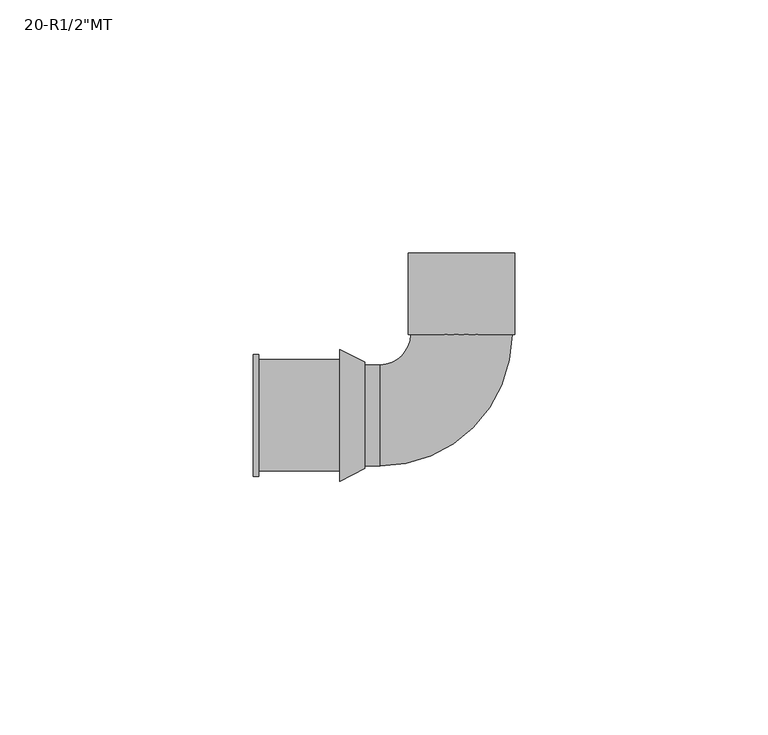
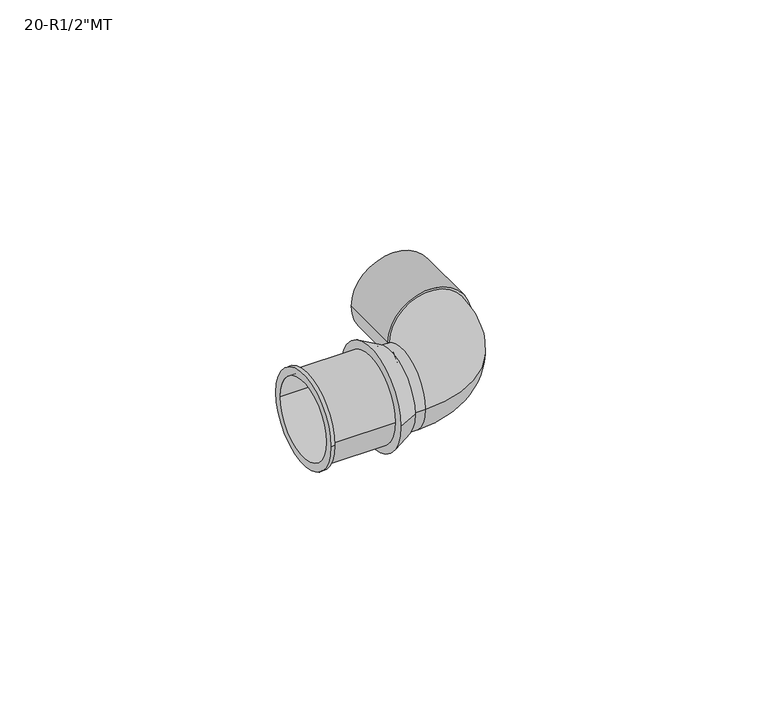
"""IFC4 building model written with IfcOpenShell, lengths in millimetres: pipe fitting geometry."""

import ifcopenshell
import ifcopenshell.guid

model = None  # the IFC model being written
_history = None  # IfcOwnerHistory: only IFC2X3 demands one
_inside = {}  # id of a spatial element -> (the spatial element, [elements in it])
_under = {}  # id of a project, library or spatial element -> (it, [spatial elements below it])
_declared = {}  # id of a project -> (the project, [libraries it declares])
_typed = {}  # id of a type object -> (the type object, [elements of that type])
_made_of = {}  # id of a material, layer set ... -> (it, [elements and type objects made of it])


def new_model(schema):
    """Start an empty IFC model of exactly this schema.

    Asked for "IFC4X3", IfcOpenShell would pick the latest addendum, in which some entities
    have other attributes; the version numbers below select the first issue.
    IFC2X3 requires an IfcOwnerHistory on every rooted entity: one is made here for all.
    """
    global model, _history
    if schema == "IFC4X3":
        model = ifcopenshell.file(schema_version=(4, 3, 0, 0))
    else:
        model = ifcopenshell.file(schema=schema)
    _inside.clear()
    _under.clear()
    _declared.clear()
    _typed.clear()
    _made_of.clear()
    _history = None
    if model.schema == "IFC2X3":
        org = make("IfcOrganization", Name="unknown")
        user = make(
            "IfcPersonAndOrganization",
            ThePerson=make("IfcPerson", FamilyName="unknown"),
            TheOrganization=org,
        )
        app = make(
            "IfcApplication",
            ApplicationDeveloper=org,
            Version="unknown",
            ApplicationFullName="unknown",
            ApplicationIdentifier="unknown",
        )
        _history = make(
            "IfcOwnerHistory",
            OwningUser=user,
            OwningApplication=app,
            ChangeAction="ADDED",
            CreationDate=0,
        )
    return model


def make(cls, **values):
    """One entity of the class cls with the attributes given. An attribute that is None is left unset."""
    return model.create_entity(
        cls, **{name: value for name, value in values.items() if value is not None}
    )


def rooted(cls, **values):
    """An entity with a GlobalId (a new one), such as an element, a storey or a relation."""
    return make(cls, GlobalId=ifcopenshell.guid.new(), OwnerHistory=_history, **values)


def si_unit(unit_type, name, prefix=None):
    """IfcSIUnit, for example si_unit("LENGTHUNIT", "METRE", prefix="MILLI")."""
    return make("IfcSIUnit", UnitType=unit_type, Prefix=prefix, Name=name)


def assignment(units):
    """IfcUnitAssignment: the units of a project."""
    return None if units is None else make("IfcUnitAssignment", Units=units)


def point(xyz):
    """IfcCartesianPoint."""
    return None if xyz is None else make("IfcCartesianPoint", Coordinates=xyz)


def direction(xyz):
    """IfcDirection."""
    return None if xyz is None else make("IfcDirection", DirectionRatios=xyz)


def frame(location, z_axis=None, x_axis=None):
    """IfcAxis2Placement3D, a coordinate frame: its origin and axes. An axis left out is left unset."""
    return make(
        "IfcAxis2Placement3D",
        Location=point(location),
        Axis=direction(z_axis),
        RefDirection=direction(x_axis),
    )


def frame_2d(location, x_axis=None):
    """IfcAxis2Placement2D, a coordinate frame in the plane: its origin and x axis."""
    return make(
        "IfcAxis2Placement2D", Location=point(location), RefDirection=direction(x_axis)
    )


def origin():
    """The frame at (0, 0, 0) with its axes left unset."""
    return frame((0.0, 0.0, 0.0))


def origin_2d():
    """The frame at (0, 0) in the plane with its x axis left unset."""
    return frame_2d((0.0, 0.0))


def place(relative_to, where):
    """IfcLocalPlacement: puts the frame where relative to a parent placement (None: the world)."""
    return make(
        "IfcLocalPlacement", PlacementRelTo=relative_to, RelativePlacement=where
    )


def context(
    kind, dimensions, precision=None, world=None, true_north=None, identifier=None
):
    """IfcGeometricRepresentationContext, for example the 3D "Model" context."""
    return make(
        "IfcGeometricRepresentationContext",
        ContextIdentifier=identifier,
        ContextType=kind,
        CoordinateSpaceDimension=dimensions,
        Precision=precision,
        WorldCoordinateSystem=world,
        TrueNorth=true_north,
    )


def project(units=None, contexts=None):
    """IfcProject with its units and contexts."""
    return rooted(
        "IfcProject",
        Name="project",
        RepresentationContexts=contexts,
        UnitsInContext=assignment(units),
    )


def spatial(cls, under=None, at=None, **own):
    """A site, building, storey or space (cls), placed at a placement, below another one or the project."""
    s = rooted(cls, ObjectPlacement=at, **own)
    if under is not None:
        _under.setdefault(under.id(), (under, []))[1].append(s)
    return s


def polyline(points):
    """IfcPolyline through the points."""
    return make("IfcPolyline", Points=[point(p) for p in points])


def circle_curve(where, radius):
    """IfcCircle in the frame where."""
    return make("IfcCircle", Position=where, Radius=radius)


def ellipse_curve(where, semi_axis1, semi_axis2):
    """IfcEllipse in the frame where."""
    return make(
        "IfcEllipse", Position=where, SemiAxis1=semi_axis1, SemiAxis2=semi_axis2
    )


def trimmed(basis, trim1, trim2, sense, master):
    """IfcTrimmedCurve: the piece of a basis curve between two trims."""
    return make(
        "IfcTrimmedCurve",
        BasisCurve=basis,
        Trim1=trim1,
        Trim2=trim2,
        SenseAgreement=sense,
        MasterRepresentation=master,
    )


def segment(curve, same_sense, transition):
    """IfcCompositeCurveSegment."""
    return make(
        "IfcCompositeCurveSegment",
        Transition=transition,
        SameSense=same_sense,
        ParentCurve=curve,
    )


def composite_curve(segments, self_intersect=None):
    """IfcCompositeCurve: segments joined end to end."""
    return make("IfcCompositeCurve", Segments=segments, SelfIntersect=self_intersect)


def outline(outer, holes=None, kind="AREA"):
    """IfcArbitraryClosedProfileDef: a profile drawn as a closed curve; with holes, ...WithVoids."""
    if holes is None:
        return make("IfcArbitraryClosedProfileDef", ProfileType=kind, OuterCurve=outer)
    return make(
        "IfcArbitraryProfileDefWithVoids",
        ProfileType=kind,
        OuterCurve=outer,
        InnerCurves=holes,
    )


def extrude(swept, where, along, depth):
    """IfcExtrudedAreaSolid: the profile swept, set in the frame where, extruded along a direction by depth."""
    return make(
        "IfcExtrudedAreaSolid",
        SweptArea=swept,
        Position=where,
        ExtrudedDirection=direction(along),
        Depth=depth,
    )


def shape(context_of_items, identifier, shape_type, items):
    """IfcShapeRepresentation: the items that make up one representation, for example the "Body"."""
    return make(
        "IfcShapeRepresentation",
        ContextOfItems=context_of_items,
        RepresentationIdentifier=identifier,
        RepresentationType=shape_type,
        Items=items,
    )


def source(mapping_origin, context_of_items, identifier, shape_type, items):
    """IfcRepresentationMap: a shape defined once, which mapped items show again and again."""
    return make(
        "IfcRepresentationMap",
        MappingOrigin=mapping_origin,
        MappedRepresentation=shape(context_of_items, identifier, shape_type, items),
    )


def transform(
    local_origin,
    x_axis=None,
    y_axis=None,
    z_axis=None,
    scale=None,
    scale2=None,
    scale3=None,
    uniform=True,
):
    """IfcCartesianTransformationOperator3D, or its non-uniform kind. x_axis, y_axis, z_axis: its Axis1, 2, 3."""
    if uniform:
        return make(
            "IfcCartesianTransformationOperator3D",
            Axis1=direction(x_axis),
            Axis2=direction(y_axis),
            LocalOrigin=point(local_origin),
            Scale=scale,
            Axis3=direction(z_axis),
        )
    return make(
        "IfcCartesianTransformationOperator3DnonUniform",
        Axis1=direction(x_axis),
        Axis2=direction(y_axis),
        LocalOrigin=point(local_origin),
        Scale=scale,
        Axis3=direction(z_axis),
        Scale2=scale2,
        Scale3=scale3,
    )


def mapped(mapping_source, mapping_target):
    """IfcMappedItem: shows the shape of a source again, moved by a transform."""
    return make(
        "IfcMappedItem", MappingSource=mapping_source, MappingTarget=mapping_target
    )


def made_of(thing, what):
    """Note that an element or type object is made of a material, layer set ...; save() writes the relation."""
    if what is not None:
        _made_of.setdefault(what.id(), (what, []))[1].append(thing)
    return thing


def element(
    cls,
    number,
    at=None,
    inside=None,
    cuts=None,
    type_object=None,
    material=None,
    context=None,
    identifier="Body",
    shape_type=None,
    held_by="IfcProductDefinitionShape",
    body=None,
    shapes=None,
    **own,
):
    """One element of the class cls, such as IfcWall. Its Tag is "e" and its number.

    at: its placement. inside: the storey or other place that contains it. cuts: it is an
    opening in that element (IfcRelVoidsElement). A single representation is given by context,
    identifier, shape_type and body (its items); several are given by shapes. held_by: the class
    of the entity that holds the representations. save() writes the other relations.
    """
    e = rooted(cls, Tag="e%d" % number, ObjectPlacement=at, **own)
    if body is not None:
        shapes = [shape(context, identifier, shape_type, body)]
    if shapes is not None:
        e.Representation = make(held_by, Representations=shapes)
    if inside is not None:
        _inside.setdefault(inside.id(), (inside, []))[1].append(e)
    if cuts is not None:
        rooted(
            "IfcRelVoidsElement", RelatingBuildingElement=cuts, RelatedOpeningElement=e
        )
    if type_object is not None:
        _typed.setdefault(type_object.id(), (type_object, []))[1].append(e)
    return made_of(e, material)


def aggregate(whole, parts):
    """IfcRelAggregates: a whole, such as a stair, and the parts it consists of."""
    return rooted("IfcRelAggregates", RelatingObject=whole, RelatedObjects=parts)


def save(model, path):
    """Write the relations noted so far, then the file.

    IfcRelAggregates (storeys below a building ...), IfcRelContainedInSpatialStructure (elements
    in a storey), IfcRelDefinesByType, IfcRelAssociatesMaterial and IfcRelDeclares: one each for
    every whole, place, type object, material and project.
    """
    for whole, parts in _under.values():
        aggregate(whole, parts)
    for where, things in _inside.values():
        rooted(
            "IfcRelContainedInSpatialStructure",
            RelatedElements=things,
            RelatingStructure=where,
        )
    for kind, things in _typed.values():
        rooted("IfcRelDefinesByType", RelatedObjects=things, RelatingType=kind)
    for what, things in _made_of.values():
        rooted("IfcRelAssociatesMaterial", RelatedObjects=things, RelatingMaterial=what)
    for by, libraries in _declared.values():
        rooted("IfcRelDeclares", RelatingContext=by, RelatedDefinitions=libraries)
    model.write(path)


def plane_surface(at):
    """IfcPlane: the flat surface through the origin of the frame at, square to its z axis."""
    return make("IfcPlane", Position=at)


def cylinder_surface(at, radius):
    """IfcCylindricalSurface: all points at the distance radius from the z axis of the frame at."""
    return make("IfcCylindricalSurface", Position=at, Radius=radius)


def revolved_surface(curve, axis_point, axis_direction):
    """IfcSurfaceOfRevolution: the curve turned about the line through axis_point along axis_direction."""
    return make(
        "IfcSurfaceOfRevolution",
        SweptCurve=make("IfcArbitraryOpenProfileDef", ProfileType="CURVE", Curve=curve),
        AxisPosition=make("IfcAxis1Placement", Location=point(axis_point), Axis=direction(axis_direction)),
    )


def advanced_brep(points, edges, surfaces, faces):
    """IfcAdvancedBrep: a solid bounded by faces that lie on surfaces and meet in shared edges.

    An edge is (start, end): straight between two places in points (the first is 0);
    or (start, end, curve); or (start, end, curve, False) where it runs against its curve.
    A face is (place in surfaces, loops), or (place, loops, False) where it looks against
    its surface's normal. A loop lists edges by number (the first is 1), with a minus sign
    where the edge is run from its end to its start. The first loop is the outer one.
    """
    corners = [point(p) for p in points]
    vertices = [make("IfcVertexPoint", VertexGeometry=c) for c in corners]
    made = []
    for start, end, *more in edges:
        made.append(
            make(
                "IfcEdgeCurve",
                EdgeStart=vertices[start],
                EdgeEnd=vertices[end],
                EdgeGeometry=more[0] if more else make("IfcPolyline", Points=[corners[start], corners[end]]),
                SameSense=more[1] if len(more) > 1 else True,
            )
        )
    hull = []
    for where, loops, *sense in faces:
        bounds = []
        for j, loop in enumerate(loops):
            ring = [make("IfcOrientedEdge", EdgeElement=made[abs(k) - 1], Orientation=k > 0) for k in loop]
            bounds.append(
                make(
                    "IfcFaceOuterBound" if j == 0 else "IfcFaceBound",
                    Bound=make("IfcEdgeLoop", EdgeList=ring),
                    Orientation=True,
                )
            )
        hull.append(make("IfcAdvancedFace", Bounds=bounds, FaceSurface=surfaces[where], SameSense=sense[0] if sense else True))
    return make("IfcAdvancedBrep", Outer=make("IfcClosedShell", CfsFaces=hull))


def pipe_fitting_791ebc37(model_context):
    return source(origin(), model_context, "Body", "SolidModel", [
        advanced_brep(
        [(10.0, 16.0, 0.0), (-10.0, 16.0, 0.0), (-16.0, 10.0, 0.0), (-16.0, -10.0, 0.0), (-19.0, -10.0, 0.0), (-19.0, 10.0, 0.0)],
        [
            (0, 1, circle_curve(frame((0.0, 16.0, 0.0), z_axis=(0.0, 1.0, 0.0), x_axis=(-1.0, 0.0, 0.0)), 10.0)),
            (1, 0, circle_curve(frame((0.0, 16.0, 0.0), z_axis=(0.0, 1.0, 0.0), x_axis=(-1.0, 0.0, 0.0)), 10.0)),
            (1, 2, circle_curve(frame((-16.0, 16.0, 0.0), z_axis=(0.0, 0.0, -1.0), x_axis=(0.0, -1.0, 0.0)), 6.0)),
            (2, 3, circle_curve(frame((-16.0, 0.0, 0.0), z_axis=(1.0, 0.0, 0.0), x_axis=(0.0, 1.0, 0.0)), 10.0)),
            (3, 0, circle_curve(frame((-16.0, 16.0, 0.0), z_axis=(0.0, 0.0, 1.0), x_axis=(0.0, -1.0, 0.0)), 26.0)),
            (3, 2, circle_curve(frame((-16.0, 0.0, 0.0), z_axis=(1.0, 0.0, 0.0), x_axis=(0.0, 1.0, 0.0)), 10.0)),
            (4, 5, circle_curve(frame((-19.0, 0.0, 0.0), z_axis=(-1.0, 0.0, 0.0), x_axis=(0.0, 1.0, 0.0)), 10.0)),
            (5, 4, circle_curve(frame((-19.0, 0.0, 0.0), z_axis=(-1.0, 0.0, 0.0), x_axis=(0.0, 1.0, 0.0)), 10.0)),
            (4, 3),
            (2, 5),
        ],
        [
            plane_surface(frame((0.0, 16.0, 0.0), z_axis=(0.0, 1.0, 0.0), x_axis=(0.0, 0.0, 1.0))),
            revolved_surface(trimmed(ellipse_curve(frame((-16.0, 0.0, 0.0), z_axis=(-1.0, 0.0, 0.0), x_axis=(0.0, 1.0, 0.0)), 10.0, 10.0), [point((-16.0, -10.0, 0.0))], [point((-16.0, 10.0, 0.0))], True, "CARTESIAN"), (-16.0, 16.0, 0.0), (0.0, 0.0, 1.0)),
            revolved_surface(trimmed(ellipse_curve(frame((-16.0, 0.0, 0.0), z_axis=(-1.0, 0.0, 0.0), x_axis=(0.0, 1.0, 0.0)), 10.0, 10.0), [point((-16.0, 10.0, 0.0))], [point((-16.0, -10.0, 0.0))], True, "CARTESIAN"), (-16.0, 16.0, 0.0), (0.0, 0.0, 1.0)),
            plane_surface(frame((-19.0, 0.0, 0.0), z_axis=(-1.0, 0.0, 0.0), x_axis=(0.0, 0.0, 1.0))),
            cylinder_surface(frame((-19.0, 0.0, 0.0), z_axis=(-1.0, 0.0, 0.0), x_axis=(0.0, 1.0, 0.0)), 10.0),
        ],
        [
            (0, [[1, 2]]),
            (1, [[-2, 3, 4, 5]]),
            (2, [[-1, -5, 6, -3]]),
            (3, [[7, 8]]),
            (4, [[-7, 9, -4, 10]]),
            (4, [[-8, -10, -6, -9]]),
        ],
    ),
        extrude(outline(composite_curve([segment(trimmed(circle_curve(origin_2d(), 10.5), [point((0.0, -10.5))], [point((0.0, 10.5))], False, "CARTESIAN"), True, "CONTINUOUS"), segment(trimmed(circle_curve(origin_2d(), 10.5), [point((0.0, 10.5))], [point((0.0, -10.5))], False, "CARTESIAN"), True, "CONTINUOUS")], self_intersect=False), holes=[composite_curve([segment(trimmed(circle_curve(origin_2d(), 7.5), [point((0.0, -7.5))], [point((0.0, 7.5))], True, "CARTESIAN"), True, "CONTINUOUS"), segment(trimmed(circle_curve(origin_2d(), 7.5), [point((0.0, 7.5))], [point((0.0, -7.5))], True, "CARTESIAN"), True, "CONTINUOUS")], self_intersect=False)]), frame((0.0, 16.0, 0.0), z_axis=(0.0, 1.0, 0.0), x_axis=(0.0, 0.0, 1.0)), (0.0, 0.0, 1.0), 16.0),
        advanced_brep(
        [(-19.0, -10.5, 0.0), (-19.0, 10.5, 0.0), (-19.0, 10.0, 0.0), (-19.0, -10.0, 0.0), (-24.0, -13.0, 0.0), (-24.0, 13.0, 0.0), (-24.0, -10.0, 0.0), (-24.0, 10.0, 0.0)],
        [
            (0, 1, circle_curve(frame((-19.0, 0.0, 0.0), z_axis=(1.0, 0.0, 0.0), x_axis=(0.0, -1.0, 0.0)), 10.5)),
            (1, 0, circle_curve(frame((-19.0, 0.0, 0.0), z_axis=(1.0, 0.0, 0.0), x_axis=(0.0, 1.0, 0.0)), 10.5)),
            (2, 3, circle_curve(frame((-19.0, 0.0, 0.0), z_axis=(-1.0, 0.0, 0.0), x_axis=(0.0, 1.0, 0.0)), 10.0)),
            (3, 2, circle_curve(frame((-19.0, 0.0, 0.0), z_axis=(-1.0, 0.0, 0.0), x_axis=(0.0, 1.0, 0.0)), 10.0)),
            (4, 5, circle_curve(frame((-24.0, 0.0, 0.0), z_axis=(-1.0, 0.0, 0.0), x_axis=(0.0, 1.0, 0.0)), 13.0)),
            (5, 4, circle_curve(frame((-24.0, 0.0, 0.0), z_axis=(-1.0, 0.0, 0.0), x_axis=(0.0, -1.0, 0.0)), 13.0)),
            (6, 7, circle_curve(frame((-24.0, 0.0, 0.0), z_axis=(1.0, 0.0, 0.0), x_axis=(0.0, 1.0, 0.0)), 10.0)),
            (7, 6, circle_curve(frame((-24.0, 0.0, 0.0), z_axis=(1.0, 0.0, 0.0), x_axis=(0.0, 1.0, 0.0)), 10.0)),
            (0, 4),
            (5, 1),
            (2, 7),
            (6, 3),
        ],
        [
            plane_surface(frame((-19.0, 0.0, 0.0), z_axis=(1.0, 0.0, 0.0), x_axis=(0.0, 0.0, -1.0))),
            plane_surface(frame((-24.0, 0.0, 0.0), z_axis=(-1.0, 0.0, 0.0), x_axis=(0.0, 0.0, -1.0))),
            revolved_surface(polyline([(-19.0, -10.5, 0.0), (-24.0, -13.0, 0.0)]), (2.0, 0.0, 0.0), (-1.0, 0.0, 0.0)),
            revolved_surface(polyline([(-19.0, 10.5, 0.0), (-24.0, 13.0, 0.0)]), (2.0, 0.0, 0.0), (-1.0, 0.0, 0.0)),
            revolved_surface(polyline([(-19.0, 10.0, 0.0), (-24.0, 10.0, 0.0)]), (-24.0, 0.0, 0.0), (1.0, 0.0, 0.0)),
        ],
        [
            (0, [[1, 2], [3, 4]]),
            (1, [[5, 6], [7, 8]]),
            (2, [[-1, 9, -6, 10]]),
            (3, [[-2, -10, -5, -9]]),
            (4, [[11, -7, 12, -3]]),
            (4, [[-11, -4, -12, -8]]),
        ],
    ),
        advanced_brep(
        [(-41.0, -12.0, 0.0), (-41.0, 12.0, 0.0), (-41.0, -10.0, 0.0), (-41.0, 10.0, 0.0), (-24.0, -11.0, 0.0), (-24.0, 11.0, 0.0), (-24.0, -10.0, 0.0), (-24.0, 10.0, 0.0), (-40.0, 11.0, 0.0), (-40.0, -11.0, 0.0), (-40.0, -12.0, 0.0), (-40.0, 12.0, 0.0)],
        [
            (0, 1, circle_curve(frame((-41.0, 0.0, 0.0), z_axis=(-1.0, 0.0, 0.0), x_axis=(0.0, 1.0, 0.0)), 12.0)),
            (1, 0, circle_curve(frame((-41.0, 0.0, 0.0), z_axis=(-1.0, 0.0, 0.0), x_axis=(0.0, 1.0, 0.0)), 12.0)),
            (2, 3, circle_curve(frame((-41.0, 0.0, 0.0), z_axis=(1.0, 0.0, 0.0), x_axis=(0.0, 1.0, 0.0)), 10.0)),
            (3, 2, circle_curve(frame((-41.0, 0.0, 0.0), z_axis=(1.0, 0.0, 0.0), x_axis=(0.0, 1.0, 0.0)), 10.0)),
            (4, 5, circle_curve(frame((-24.0, 0.0, 0.0), z_axis=(1.0, 0.0, 0.0), x_axis=(0.0, 1.0, 0.0)), 11.0)),
            (5, 4, circle_curve(frame((-24.0, 0.0, 0.0), z_axis=(1.0, 0.0, 0.0), x_axis=(0.0, 1.0, 0.0)), 11.0)),
            (6, 7, circle_curve(frame((-24.0, 0.0, 0.0), z_axis=(-1.0, 0.0, 0.0), x_axis=(0.0, 1.0, 0.0)), 10.0)),
            (7, 6, circle_curve(frame((-24.0, 0.0, 0.0), z_axis=(-1.0, 0.0, 0.0), x_axis=(0.0, 1.0, 0.0)), 10.0)),
            (2, 6),
            (7, 3),
            (5, 8),
            (8, 9, circle_curve(frame((-40.0, 0.0, 0.0), z_axis=(1.0, 0.0, 0.0), x_axis=(0.0, 1.0, 0.0)), 11.0)),
            (9, 4),
            (9, 8, circle_curve(frame((-40.0, 0.0, 0.0), z_axis=(1.0, 0.0, 0.0), x_axis=(0.0, 1.0, 0.0)), 11.0)),
            (10, 11, circle_curve(frame((-40.0, 0.0, 0.0), z_axis=(1.0, 0.0, 0.0), x_axis=(0.0, 1.0, 0.0)), 12.0)),
            (11, 10, circle_curve(frame((-40.0, 0.0, 0.0), z_axis=(1.0, 0.0, 0.0), x_axis=(0.0, 1.0, 0.0)), 12.0)),
            (0, 10),
            (11, 1),
        ],
        [
            plane_surface(frame((-41.0, 0.0, 0.0), z_axis=(-1.0, 0.0, 0.0), x_axis=(0.0, 0.0, 1.0))),
            plane_surface(frame((-24.0, 0.0, 0.0), z_axis=(1.0, 0.0, 0.0), x_axis=(0.0, 0.0, 1.0))),
            revolved_surface(polyline([(-24.0, 10.0, 0.0), (-41.0, 10.0, 0.0)]), (-41.0, 0.0, 0.0), (1.0, 0.0, 0.0)),
            cylinder_surface(frame((-41.0, 0.0, 0.0), z_axis=(-1.0, 0.0, 0.0), x_axis=(0.0, 1.0, 0.0)), 11.0),
            plane_surface(frame((-40.0, 0.0, 0.0), z_axis=(1.0, 0.0, 0.0), x_axis=(0.0, 0.0, 1.0))),
            cylinder_surface(frame((-41.0, 0.0, 0.0), z_axis=(-1.0, 0.0, 0.0), x_axis=(0.0, 1.0, 0.0)), 12.0),
        ],
        [
            (0, [[1, 2], [3, 4]]),
            (1, [[5, 6], [7, 8]]),
            (2, [[-3, 9, -8, 10]]),
            (2, [[-4, -10, -7, -9]]),
            (3, [[-6, 11, 12, 13]]),
            (3, [[-5, -13, 14, -11]]),
            (4, [[15, 16], [-12, -14]]),
            (5, [[-1, 17, -16, 18]]),
            (5, [[-2, -18, -15, -17]]),
        ],
    ),
    ])


if __name__ == "__main__":
    model = new_model("IFC4")
    model_context = context("Model", 3, world=origin())
    ifc_project = project(units=[si_unit("LENGTHUNIT", "METRE", prefix="MILLI")], contexts=[model_context])
    site = spatial("IfcSite", under=ifc_project)
    building = spatial("IfcBuilding", under=site)
    placement = place(None, origin())
    pipe_fitting_shape = pipe_fitting_791ebc37(model_context)
    element("IfcPipeFitting", 1, ObjectType="SuperPipe_ElbowAdapterMT_MAX_R : 20-R1/2\"MT", at=placement, inside=building, context=model_context, shape_type="MappedRepresentation", body=[
        mapped(pipe_fitting_shape, transform((0.0, 0.0, 0.0), x_axis=(1.0, 0.0, 0.0), y_axis=(0.0, 1.0, 0.0), z_axis=(0.0, 0.0, 1.0))),
    ])
    save(model, "model.ifc")
